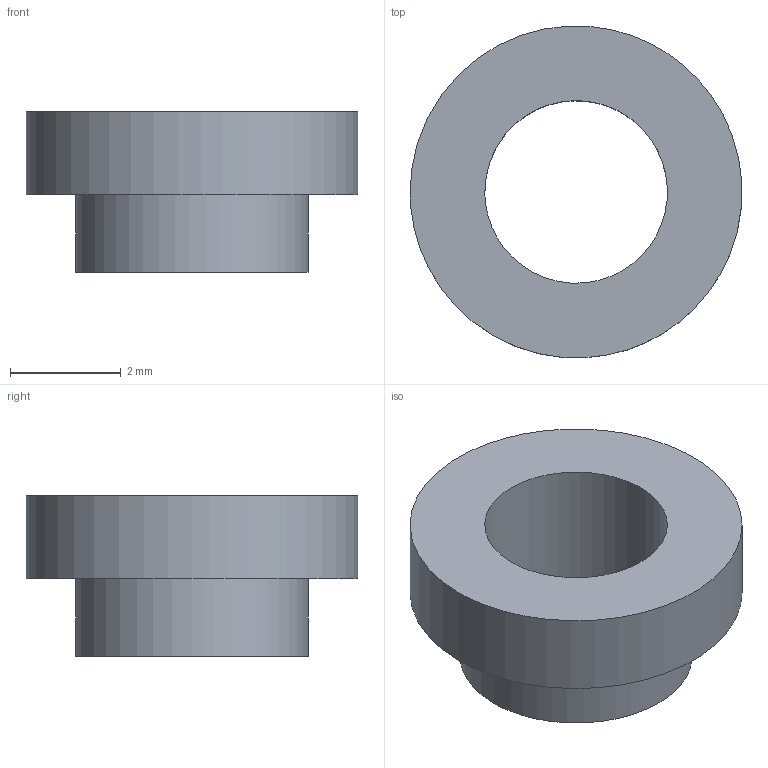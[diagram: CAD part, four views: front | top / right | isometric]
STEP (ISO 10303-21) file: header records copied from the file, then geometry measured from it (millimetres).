
FILE_DESCRIPTION(('FreeCAD Model'),'2;1');
FILE_NAME('Open CASCADE Shape Model','2026-03-20T17:23:03',('Author'),( ''),'Open CASCADE STEP processor 7.8','FreeCAD','Unknown');
FILE_SCHEMA(('AP242_MANAGED_MODEL_BASED_3D_ENGINEERING_MIM_LF. {1 0 10303 442 1 1 4 }'));
Length unit declared in the file: millimetre
Products named in the file (1): 1_transformed
Bounding box: 6 x 5.99 x 2.9 mm (x, y, z)
Volume: 37.3 mm3; surface area: 116.5 mm2
Topology: 1 solids, 1 shells, 6 faces, 9 edges, 6 vertices
Faces by surface type: bspline 6
Entity records: 201 total; most frequent: CARTESIAN_POINT 109, ORIENTED_EDGE 18, FACE_BOUND 9, EDGE_LOOP 9, EDGE_CURVE 9, ADVANCED_FACE 6, VERTEX_POINT 6, B_SPLINE_SURFACE_WITH_KNOTS 3
